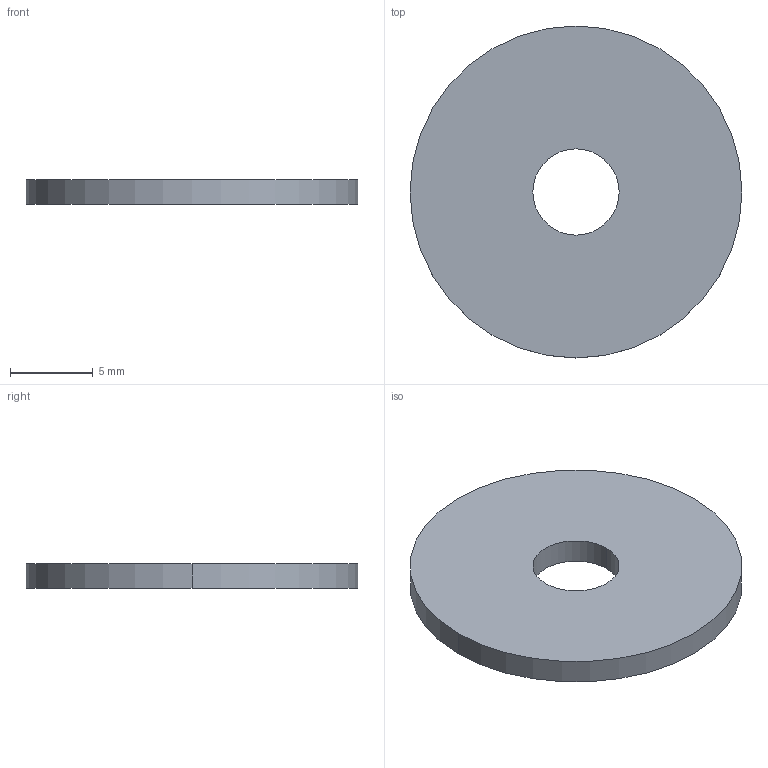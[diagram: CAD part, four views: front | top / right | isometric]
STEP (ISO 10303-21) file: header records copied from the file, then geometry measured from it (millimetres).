
FILE_DESCRIPTION (( 'STEP AP203' ), '1' );
FILE_NAME ('P0333.050-020-A4.step', '2018-12-17T19:07:48', ( '' ), ( '' ), 'SwSTEP 2.0', 'SolidWorks 2017', '' );
FILE_SCHEMA (( 'CONFIG_CONTROL_DESIGN' ));
Length unit declared in the file: millimetre
Products named in the file (1): P0333.050-020-A4
Bounding box: 20 x 20 x 1.5 mm (x, y, z)
Volume: 439.4 mm3; surface area: 704.6 mm2
Topology: 1 solids, 1 shells, 6 faces, 12 edges, 8 vertices
Faces by surface type: cylinder 4, plane 2
Entity records: 245 total; most frequent: DIRECTION 34, CARTESIAN_POINT 27, ORIENTED_EDGE 24, AXIS2_PLACEMENT_3D 15, EDGE_CURVE 12, EDGE_LOOP 8, VERTEX_POINT 8, CIRCLE 8
